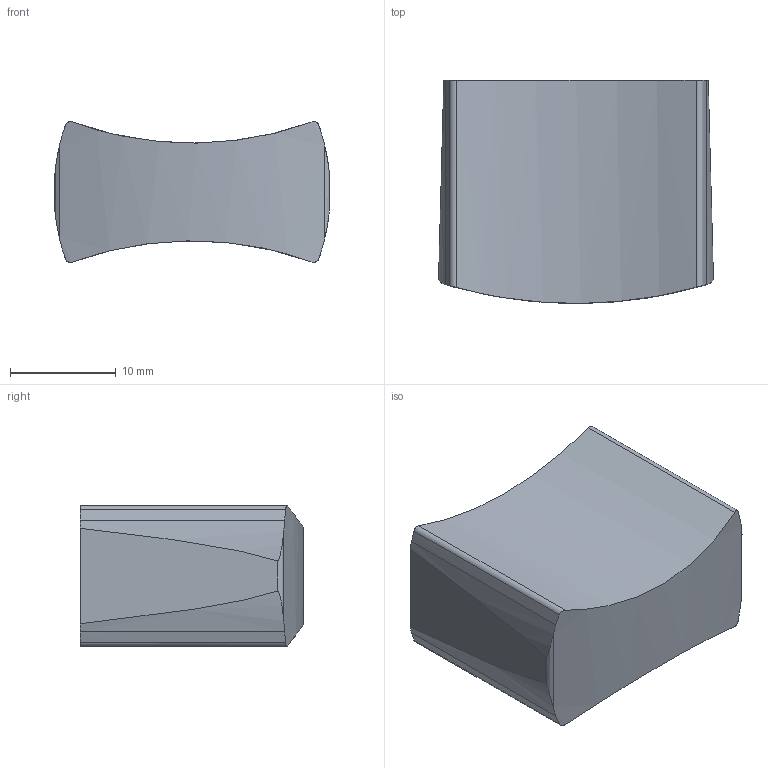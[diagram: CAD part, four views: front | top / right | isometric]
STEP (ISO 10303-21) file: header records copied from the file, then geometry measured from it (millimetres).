
FILE_DESCRIPTION( ( '' ), '1' );
FILE_NAME( 'C:/Documents and Settings/Nikhil/Desktop/Nik/Done/9113428.stp', '2013-10-23T10:55:59', ( '' ), ( '' ), ' ', ' ', ' ' );
FILE_SCHEMA( ( 'automotive_design' ) );
Length unit declared in the file: millimetre
Products named in the file (1): 1
Bounding box: 26 x 21.1 x 13.31 mm (x, y, z)
Volume: 5394.2 mm3; surface area: 2180.4 mm2
Topology: 1 solids, 1 shells, 23 faces, 60 edges, 40 vertices
Faces by surface type: cylinder 19, plane 4
Entity records: 1582 total; most frequent: CARTESIAN_POINT 318, STYLED_ITEM 124, PRESENTATION_STYLE_ASSIGNMENT 124, COLOUR_RGB 124, ORIENTED_EDGE 120, DIRECTION 112, EDGE_CURVE 60, CURVE_STYLE 60
